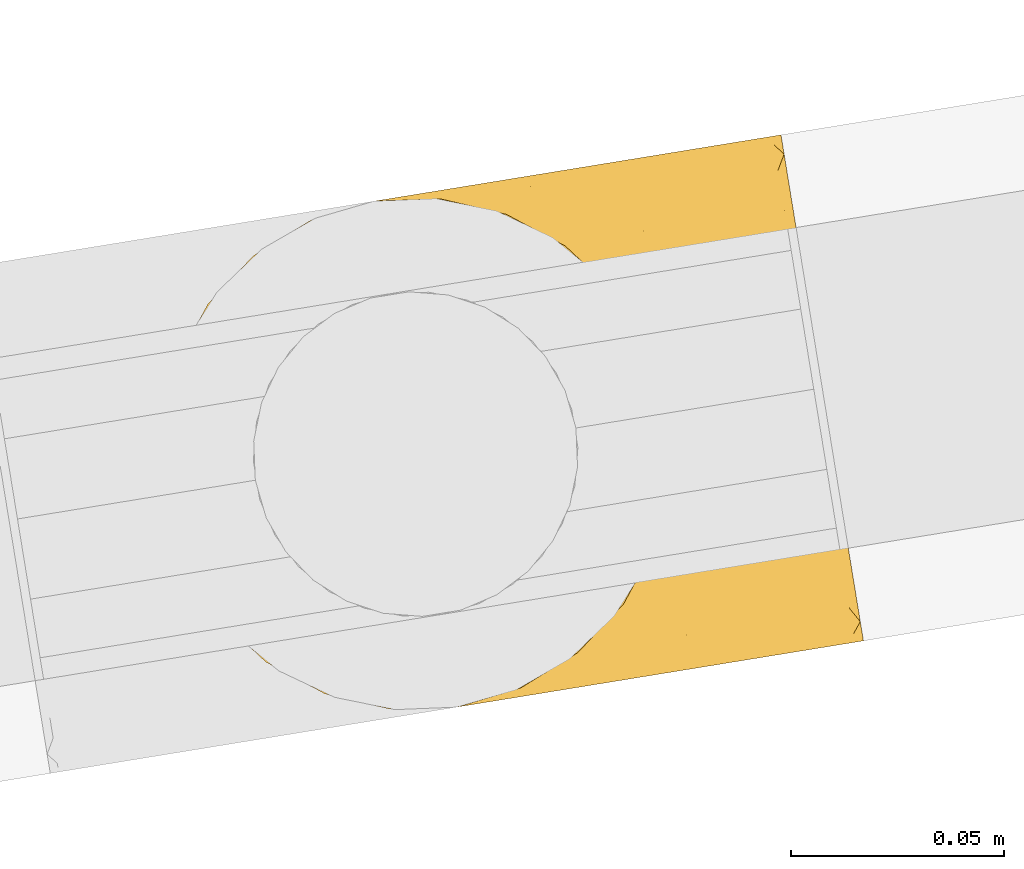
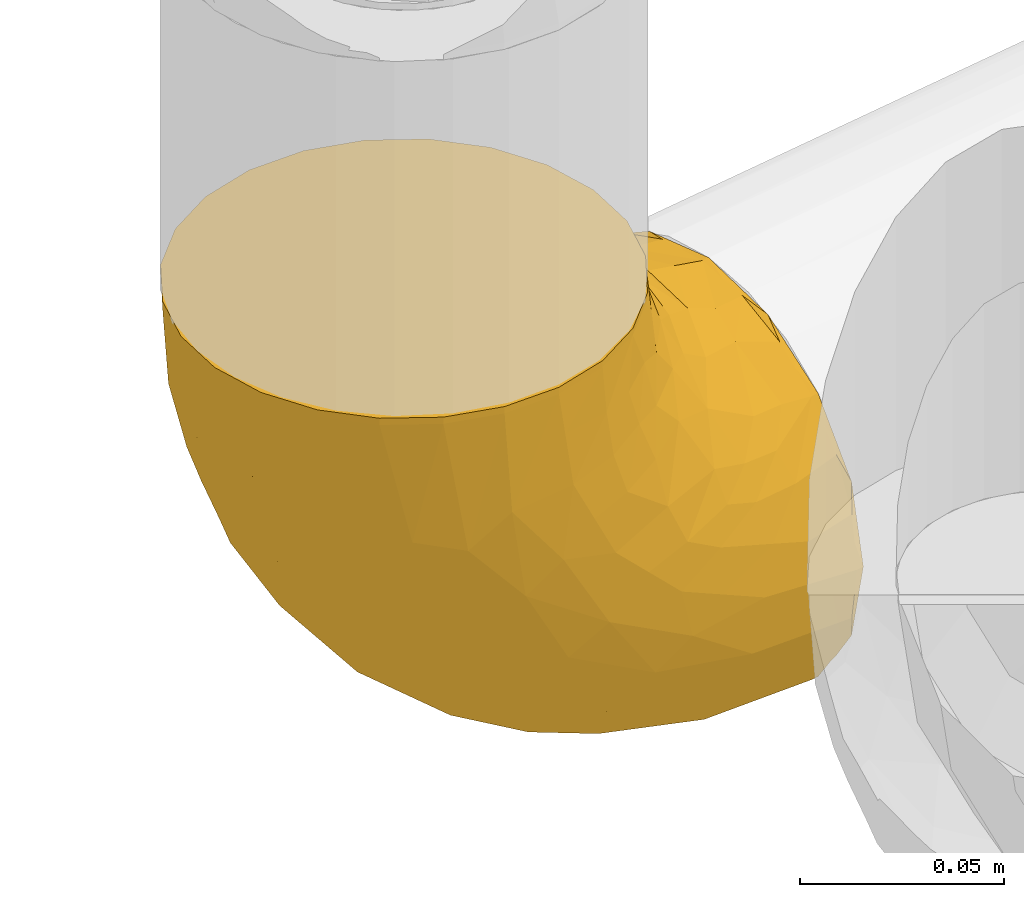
# One storey, part 16 of 56: 1 covering.
"""IFC2X3 building model written with IfcOpenShell, lengths in millimetres."""

from ifc_helpers import new_model, entity, si_unit, converted_unit, derived_unit, direction, frame, origin, origin_with_axes, place, context, subcontext, project, spatial, faceted_brep, material, type_object, element, save


model = new_model("IFC2X3")

# Units and contexts
model_context = context("Model", 3, precision=0.01, world=origin(), true_north=direction((6.12323399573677e-17, 1.0)))
plan_context = context("Plan", 3, precision=1e-05, world=origin_with_axes())
body_context = subcontext(model_context, "Body", "Model", "MODEL_VIEW")
ifc_project = project(units=[converted_unit("PLANEANGLEUNIT", "DEGREE", entity("IfcPositiveLengthMeasure", 0.0174532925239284), si_unit("PLANEANGLEUNIT", "RADIAN"), dimensions=[0, 0, 0, 0, 0, 0, 0]), si_unit("AREAUNIT", "SQUARE_METRE"), si_unit("LENGTHUNIT", "METRE", prefix="MILLI"), si_unit("MASSUNIT", "GRAM", prefix="KILO"), si_unit("POWERUNIT", "WATT"), si_unit("PRESSUREUNIT", "PASCAL", prefix="KILO"), si_unit("FORCEUNIT", "NEWTON", prefix="KILO"), si_unit("ELECTRICVOLTAGEUNIT", "VOLT"), si_unit("ELECTRICCURRENTUNIT", "AMPERE"), si_unit("THERMODYNAMICTEMPERATUREUNIT", "DEGREE_CELSIUS"), si_unit("TIMEUNIT", "SECOND"), si_unit("VOLUMEUNIT", "CUBIC_METRE"), derived_unit("LINEARVELOCITYUNIT", [(si_unit("LENGTHUNIT", "METRE"), 1), (si_unit("TIMEUNIT", "SECOND"), -1)]), derived_unit("VOLUMETRICFLOWRATEUNIT", [(si_unit("VOLUMEUNIT", "CUBIC_METRE"), 1), (si_unit("TIMEUNIT", "SECOND"), -1)]), derived_unit("THERMALTRANSMITTANCEUNIT", [(si_unit("POWERUNIT", "WATT"), 1), (si_unit("THERMODYNAMICTEMPERATUREUNIT", "KELVIN"), -1), (si_unit("AREAUNIT", "SQUARE_METRE"), -1)]), derived_unit("SOUNDPRESSUREUNIT", [(si_unit("PRESSUREUNIT", "PASCAL"), 1)])], contexts=[model_context, plan_context])

# Site, building, storey
site_placement = place(None, frame((-3.09682673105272e-06, 1.93776733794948e-05, 0.0), z_axis=(0.0, 0.0, 1.0), x_axis=(-0.160806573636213, 0.986985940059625, 0.0)))
site = spatial("IfcSite", under=ifc_project, at=site_placement, Name="Default", CompositionType="ELEMENT")
building_placement = place(site_placement, frame((0.0, 0.0, 0.0), z_axis=(0.0, 0.0, 1.0), x_axis=(1.0, -2.77555756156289e-17, 0.0)))
building = spatial("IfcBuilding", under=site, at=building_placement, Name="Bygning (endres i Project Information)", CompositionType="ELEMENT")
storey_placement = place(building_placement, frame((0.0, 0.0, 51360.0000000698), z_axis=(0.0, 0.0, 1.0), x_axis=(1.0, -2.77555756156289e-17, 0.0)))
storey = spatial("IfcBuildingStorey", under=building, at=storey_placement, Name="H01-Nivå D+0,36", CompositionType="ELEMENT", Elevation=51360.0000000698)

# Covering
ifc_material = material(Name="3700.001 Tur")
covering_type = type_object("IfcCoveringType", Name="Pipe Insulation:GLAVA avløpsisol. slange økende 19mm (15,5-25,0)", PredefinedType="INSULATION")
covering_placement = place(storey_placement, frame((1011826.7223707, -395725.815734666, 3238.35472776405), z_axis=(0.0, 0.0, 1.0), x_axis=(1.0, -2.77555756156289e-17, 0.0)))
element("IfcCovering", 1, at=covering_placement, inside=storey, type_object=covering_type, material=ifc_material, Name="Pipe Insulation:GLAVA avløpsisol. slange økende 19mm (15,5-25,0)", ObjectType="Pipe Insulation:GLAVA avløpsisol. slange økende 19mm (15,5-25,0)", PredefinedType="INSULATION", context=body_context, shape_type="Brep", body=[
    faceted_brep([(12.6749081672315, 0.0, 28.9243210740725), (19.1835100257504, 0.0, 19.1835100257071), (28.9243210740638, 0.0, 12.6749081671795), (38.6651321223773, 0.0, 6.16630630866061), (50.15520217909, 0.0, 3.88078927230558), (61.6452722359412, 0.0, 1.59527223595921), (73.1353422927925, 0.0, 3.88078927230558), (84.6254123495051, 0.0, 6.16630630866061), (94.3662233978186, 0.0, 12.6749081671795), (104.107034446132, 0.0, 19.1835100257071), (110.615636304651, 0.0, 28.9243210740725), (117.124238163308, 0.0, 38.665132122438), (119.409755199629, 0.0, 50.1552021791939), (121.695272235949, 0.0, 61.6452722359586), (119.409755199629, 0.0, 73.1353422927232), (117.124238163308, 0.0, 84.6254123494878), (110.615636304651, 0.0, 94.3662233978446), (104.107034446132, 0.0, 104.10703444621), (94.3662233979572, 0.0, 110.615636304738), (84.6254123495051, 0.0, 117.124238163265), (73.1353422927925, 0.0, 119.409755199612), (61.6452722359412, 0.0, 121.695272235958), (50.15520217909, 0.0, 119.409755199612), (38.6651321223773, 0.0, 117.124238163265), (28.9243210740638, 0.0, 110.615636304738), (19.1835100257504, 0.0, 104.10703444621), (12.6749081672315, 0.0, 94.3662233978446), (6.16630630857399, 0.0, 84.6254123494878), (3.88078927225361, 0.0, 73.1353422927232), (1.59527223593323, 0.0, 61.6452722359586), (3.88078927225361, 0.0, 50.1552021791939), (6.16630630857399, 0.0, 38.665132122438), (84.4288140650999, 151.504335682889, 158.145272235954), (77.1873558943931, 154.503845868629, 158.145272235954), (70.0046048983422, 155.449472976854, 158.145272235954), (61.6452722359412, 156.549999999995, 158.145272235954), (53.8742304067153, 155.526922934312, 158.145272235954), (46.1031885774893, 154.503845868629, 158.145272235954), (38.8617304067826, 151.504335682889, 158.145272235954), (31.6202722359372, 148.504825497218, 158.145272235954), (25.4018911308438, 143.733293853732, 158.145272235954), (19.1835100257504, 138.961762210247, 158.145272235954), (14.4119783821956, 132.743381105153, 158.145272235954), (9.64044673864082, 126.524999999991, 158.145272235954), (6.64093655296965, 119.283541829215, 158.145272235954), (3.64142636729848, 112.042083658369, 158.145272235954), (2.69579925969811, 104.859332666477, 158.145272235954), (1.59527223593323, 96.4999999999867, 158.145272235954), (2.61834930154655, 88.7289581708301, 158.145272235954), (3.64142636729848, 80.9579163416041, 158.145272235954), (6.64093655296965, 73.7164581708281, 158.145272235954), (9.64044673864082, 66.4749999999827, 158.145272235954), (14.4119783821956, 60.25661889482, 158.145272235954), (19.1835100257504, 54.0382377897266, 158.145272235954), (25.4018911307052, 49.2667061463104, 158.145272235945), (31.6202722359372, 44.4951745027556, 158.145272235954), (38.8617304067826, 41.4956643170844, 158.145272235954), (46.1031885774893, 38.496154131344, 158.145272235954), (53.2859395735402, 37.5505270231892, 158.145272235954), (61.6452722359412, 36.4499999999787, 158.145272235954), (69.4163140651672, 37.4730770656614, 158.145272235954), (77.1873558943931, 38.496154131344, 158.145272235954), (84.4288140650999, 41.4956643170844, 158.145272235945), (91.6702722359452, 44.4951745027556, 158.145272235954), (97.8886533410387, 49.2667061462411, 158.145272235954), (104.107034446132, 54.0382377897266, 158.145272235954), (108.878566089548, 60.2566188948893, 158.145272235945), (113.650097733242, 66.4749999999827, 158.145272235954), (116.649607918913, 73.7164581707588, 158.145272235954), (119.649118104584, 80.9579163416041, 158.145272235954), (120.594745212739, 88.1406673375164, 158.145272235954), (121.695272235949, 96.4999999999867, 158.145272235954), (120.672195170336, 104.271041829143, 158.145272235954), (119.649118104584, 112.042083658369, 158.145272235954), (116.649607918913, 119.283541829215, 158.145272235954), (113.650097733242, 126.524999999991, 158.145272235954), (108.878566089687, 132.743381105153, 158.145272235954), (104.107034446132, 138.961762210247, 158.145272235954), (97.8886533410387, 143.733293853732, 158.145272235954), (91.6702722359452, 148.504825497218, 158.145272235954), (46.1031885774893, 154.503845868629, 156.145272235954), (61.6452722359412, 156.549999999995, 156.145272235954), (53.2859395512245, 155.449472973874, 156.145272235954), (31.6202722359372, 148.504825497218, 156.145272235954), (38.861730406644, 151.504335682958, 156.145272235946), (25.4018911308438, 143.733293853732, 156.145272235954), (19.1835100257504, 138.961762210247, 156.145272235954), (9.64044673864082, 126.524999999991, 156.145272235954), (14.4119783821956, 132.743381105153, 156.145272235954), (3.64142636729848, 112.042083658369, 156.145272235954), (6.64093655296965, 119.283541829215, 156.145272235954), (2.61834930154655, 104.271041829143, 156.145272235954), (1.59527223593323, 96.4999999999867, 156.145272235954), (2.69579925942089, 88.1406673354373, 156.145272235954), (2.99407838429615, 85.8750124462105, 156.145272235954), (3.64142636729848, 80.9579163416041, 156.145272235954), (9.64044673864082, 66.4749999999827, 156.145272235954), (6.64093655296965, 73.7164581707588, 156.145272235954), (14.4119783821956, 60.25661889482, 156.145272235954), (19.1835100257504, 54.0382377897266, 156.145272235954), (31.6202722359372, 44.4951745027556, 156.145272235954), (25.4018911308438, 49.2667061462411, 156.145272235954), (46.1031885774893, 38.496154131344, 156.145272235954), (38.8617304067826, 41.4956643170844, 156.145272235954), (53.8742304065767, 37.4730770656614, 156.145272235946), (61.6452722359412, 36.4499999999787, 156.145272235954), (77.1873558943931, 38.496154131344, 156.145272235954), (70.0046048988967, 37.5505270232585, 156.145272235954), (91.6702722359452, 44.4951745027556, 156.145272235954), (84.4288140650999, 41.4956643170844, 156.145272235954), (97.8886533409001, 49.2667061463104, 156.145272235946), (104.107034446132, 54.0382377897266, 156.145272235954), (113.650097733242, 66.4749999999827, 156.145272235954), (108.878566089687, 60.25661889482, 156.145272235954), (119.649118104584, 80.9579163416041, 156.145272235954), (116.649607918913, 73.7164581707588, 156.145272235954), (120.296466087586, 85.8750124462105, 156.145272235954), (120.672195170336, 88.7289581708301, 156.145272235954), (121.695272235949, 96.4999999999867, 156.145272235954), (119.649118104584, 112.042083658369, 156.145272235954), (120.594745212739, 104.859332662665, 156.145272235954), (113.650097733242, 126.524999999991, 156.145272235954), (116.649607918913, 119.283541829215, 156.145272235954), (108.878566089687, 132.743381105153, 156.145272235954), (104.107034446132, 138.961762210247, 156.145272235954), (91.6702722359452, 148.504825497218, 156.145272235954), (97.8886533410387, 143.733293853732, 156.145272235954), (77.1873558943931, 154.503845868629, 156.145272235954), (84.4288140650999, 151.504335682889, 156.145272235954), (69.4163140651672, 155.526922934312, 156.145272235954), (61.6452722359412, 42.0004834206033, 6.86143578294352), (50.874360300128, 28.4061816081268, 4.85633208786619), (48.3123405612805, 66.8176923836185, 17.4970961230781), (61.6452722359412, 151.283836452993, 116.144788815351), (50.8743603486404, 153.28894006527, 129.739090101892), (40.1140278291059, 138.43438143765, 92.4811097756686), (29.0681267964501, 134.144438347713, 96.5885905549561), (40.5629880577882, 148.119588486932, 119.160590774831), (26.8652987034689, 142.732214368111, 128.340793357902), (6.2538791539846, 103.184564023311, 96.0393535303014), (9.32891480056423, 118.904536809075, 114.864782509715), (15.7793795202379, 116.677739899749, 88.2689784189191), (30.9943885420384, 100.860670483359, 48.520907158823), (43.033171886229, 122.592591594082, 64.2876891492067), (46.1252897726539, 94.5183470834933, 34.9034338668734), (2.60271791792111, 94.1873799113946, 104.940499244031), (3.35496170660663, 79.0255659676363, 79.1197072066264), (1.59527223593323, 78.4521059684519, 100.599565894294), (16.4717971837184, 130.738697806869, 118.733085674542), (25.2721583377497, 116.858258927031, 72.1727217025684), (61.6452722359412, 111.283353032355, 46.8619192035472), (61.6452722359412, 79.2749999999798, 22.3010460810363), (61.6452722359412, 135.844226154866, 78.8702722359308), (4.10209138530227, 109.248734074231, 125.036729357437), (6.25387908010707, 62.1059203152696, 54.9607093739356), (8.17011244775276, 88.1401035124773, 70.0051707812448), (1.59527223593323, 85.1634733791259, 113.771366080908), (1.59527223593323, 91.8748407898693, 126.943166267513), (51.0085878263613, 145.293239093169, 100.826681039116), (16.4717967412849, 39.4121875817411, 27.406575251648), (15.7793792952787, 69.8762968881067, 41.467534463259), (29.0681253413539, 61.5566846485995, 24.0008362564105), (40.5629880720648, 38.9846813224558, 10.0256837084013), (46.1031885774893, 2.0, 3.64142636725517), (38.8617304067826, 2.0, 6.6409365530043), (31.6202722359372, 2.0, 9.64044673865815), (26.8652981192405, 29.8044794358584, 15.4130584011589), (25.4018911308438, 2.0, 14.4119783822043), (19.1835100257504, 2.0, 19.1835100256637), (61.6452722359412, 2.0, 1.5952722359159), (53.8742304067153, 2.0, 2.61834930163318), (9.32891462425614, 43.2804911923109, 39.2407362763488), (9.64044673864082, 2.0, 31.6202722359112), (6.64093655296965, 2.0, 38.8617304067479), (3.64142636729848, 2.0, 46.1031885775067), (14.4119783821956, 2.0, 25.4018911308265), (1.59527223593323, 57.5457063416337, 79.6931662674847), (1.59527223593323, 67.9989061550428, 90.1463660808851), (2.6027179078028, 53.2047737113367, 63.9578927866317), (4.1020913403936, 33.1085435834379, 48.8965385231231), (1.59527223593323, 31.202105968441, 66.270431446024), (1.59527223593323, 2.0, 61.6452722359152), (1.59527223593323, 14.7966155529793, 63.6720570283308), (1.59527223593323, 44.3739061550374, 72.98179885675), (38.4156117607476, 76.0964222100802, 25.867792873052), (2.61834930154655, 2.0, 53.8742304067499), (17.5329938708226, 97.6322626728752, 60.5130135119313), (1.59527223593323, 94.4732153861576, 143.348657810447), (30.453594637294, 26.3881555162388, 120.50419746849), (45.3850170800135, 19.8213005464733, 124.070288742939), (39.6602346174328, 30.495068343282, 130.078513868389), (3.64833911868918, 79.6755573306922, 142.117064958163), (3.2176443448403, 77.7956794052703, 128.62883256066), (35.7453885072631, 41.3921957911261, 147.533586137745), (19.0905134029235, 51.2599985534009, 139.082463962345), (32.0600621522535, 39.3569033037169, 136.422330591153), (7.1678522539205, 66.4255659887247, 130.785364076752), (6.53844542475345, 61.7611370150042, 118.478414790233), (11.6121890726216, 57.397905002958, 129.916934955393), (2.87864533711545, 73.6921423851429, 116.031663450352), (4.10903521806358, 59.8559552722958, 104.870233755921), (19.6892528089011, 11.105458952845, 105.417545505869), (18.442420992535, 21.0489355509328, 106.909255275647), (12.6384382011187, 18.495195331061, 98.668926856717), (2.61834930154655, 2.0, 69.4163140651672), (2.99407837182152, 2.0, 72.2702596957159), (3.64142636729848, 2.0, 77.1873558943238), (7.16352338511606, 69.7763679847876, 141.952476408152), (12.7756283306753, 60.2362581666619, 143.451789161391), (46.8445885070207, 35.2954551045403, 141.678469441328), (28.5046498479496, 35.1684660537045, 126.594306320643), (18.6122281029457, 35.474407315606, 115.549145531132), (34.8214494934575, 13.4287309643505, 117.005756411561), (31.6202722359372, 2.0, 113.650097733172), (38.8617304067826, 2.0, 116.649607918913), (46.1031885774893, 2.0, 119.649118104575), (2.81174882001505, 54.7534216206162, 92.7490897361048), (6.64320962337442, 29.8078963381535, 91.4693001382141), (2.9890941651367, 44.0771599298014, 86.1872714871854), (3.24649436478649, 27.0781928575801, 79.6356612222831), (11.1155242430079, 29.7714545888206, 100.652594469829), (2.96958213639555, 16.2064688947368, 75.6631370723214), (9.64044673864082, 2.0, 91.6702722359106), (8.05093078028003, 16.1340663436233, 90.2295581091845), (19.1835100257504, 2.0, 104.107034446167), (13.3023469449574, 48.9737177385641, 120.648409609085), (21.705384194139, 43.9447950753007, 129.564302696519), (61.6452722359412, 10.6124999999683, 124.002984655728), (44.9928957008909, 11.3511933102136, 120.547927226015), (9.64933126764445, 40.6154890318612, 104.53242301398), (6.18578600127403, 39.3574666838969, 95.2125765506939), (61.6452722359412, 2.0, 121.695272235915), (61.6452722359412, 25.5297875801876, 132.61548465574), (61.6452722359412, 19.2249999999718, 126.310697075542), (50.8046760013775, 29.8232292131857, 134.199400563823), (61.6452722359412, 31.8345751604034, 138.92027223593), (14.4119783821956, 2.0, 97.8886533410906), (25.4018911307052, 2.0, 108.878566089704), (6.64093655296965, 2.0, 84.4288140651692), (53.8742304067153, 2.0, 120.672195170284), (104.200031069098, 51.2599985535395, 139.082463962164), (87.5451559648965, 41.3921957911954, 147.533586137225), (76.4459559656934, 35.2954551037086, 141.678469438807), (119.642205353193, 79.6755573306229, 142.117064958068), (121.695272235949, 94.4732153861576, 143.348657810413), (121.695272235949, 57.5457063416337, 79.6931662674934), (120.478798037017, 54.7534299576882, 92.7490814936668), (120.301449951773, 44.077157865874, 86.1872721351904), (77.9055273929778, 19.8213005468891, 124.070288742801), (92.8369498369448, 26.3881555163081, 120.504197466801), (83.6303098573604, 30.495068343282, 130.07851386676), (110.773465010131, 60.6680970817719, 143.724416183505), (116.468392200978, 70.3948101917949, 141.257647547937), (116.122692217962, 66.4255659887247, 130.785364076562), (120.411899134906, 73.6921423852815, 116.031663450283), (120.252303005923, 78.4327232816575, 128.101851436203), (121.695272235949, 91.8748407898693, 126.943166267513), (101.585160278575, 43.9447950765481, 129.564302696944), (104.678309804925, 35.4744037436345, 115.549151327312), (109.988197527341, 48.9737177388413, 120.648409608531), (94.7858946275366, 35.1684660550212, 126.594306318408), (91.230482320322, 39.3569033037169, 136.422330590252), (73.0698771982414, 26.1401484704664, 130.052599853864), (121.695272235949, 67.9989061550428, 90.1463660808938), (119.181510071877, 59.8559490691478, 104.870222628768), (78.2976487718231, 11.3511933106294, 120.547927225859), (121.695272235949, 14.7966155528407, 63.6720570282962), (119.649118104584, 2.0, 77.1873558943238), (120.296466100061, 2.0, 72.2702596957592), (120.672195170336, 2.0, 69.4163140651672), (121.695272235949, 2.0, 61.6452722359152), (113.641203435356, 40.6154761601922, 104.532434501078), (110.65210593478, 18.4951987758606, 98.6689283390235), (104.107034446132, 2.0, 104.107034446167), (115.239608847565, 16.134063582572, 90.2295673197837), (108.878566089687, 2.0, 97.8886533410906), (113.650097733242, 2.0, 91.6702722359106), (120.044048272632, 27.0781868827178, 79.6356673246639), (116.647331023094, 29.8078959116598, 91.4693094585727), (104.848120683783, 21.04892582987, 106.909254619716), (112.175015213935, 29.7714523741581, 100.652602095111), (116.752097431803, 61.76113027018, 118.478411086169), (121.695272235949, 31.202105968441, 66.270431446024), (120.320962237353, 16.206468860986, 75.6631375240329), (121.695272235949, 44.3739061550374, 72.9817988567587), (103.601296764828, 11.1054582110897, 105.417540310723), (88.4690949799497, 13.428730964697, 117.00575641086), (77.1873558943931, 2.0, 119.649118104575), (84.4288140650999, 2.0, 116.649607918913), (91.6702722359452, 2.0, 113.650097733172), (111.678355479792, 57.3979048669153, 129.916934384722), (121.695272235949, 78.4521059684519, 100.599565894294), (69.4163140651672, 2.0, 120.672195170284), (117.104756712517, 39.3574747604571, 95.2125864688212), (116.649607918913, 2.0, 84.4288140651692), (97.8886533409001, 2.0, 108.878566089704), (121.695272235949, 85.1634733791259, 113.771366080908), (120.687826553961, 94.1873799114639, 104.9404992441), (94.2224191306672, 61.5566846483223, 24.0008362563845), (98.0183867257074, 85.9725557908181, 41.28701771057), (107.511165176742, 69.8762968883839, 41.4675344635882), (82.7275563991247, 38.9846813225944, 10.0256837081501), (91.6702722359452, 2.0, 9.64044673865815), (84.4288140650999, 2.0, 6.6409365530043), (77.1873558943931, 2.0, 3.64142636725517), (92.2961553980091, 109.624370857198, 57.2846075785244), (80.2573722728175, 93.8575895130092, 35.5526854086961), (77.1652542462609, 123.241842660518, 63.6269305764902), (120.68782656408, 53.2047737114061, 63.9578927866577), (119.935582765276, 79.0255659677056, 79.1197072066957), (119.18845308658, 109.248734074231, 125.036729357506), (72.4161841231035, 153.28894006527, 129.7390901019), (82.7275564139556, 148.119588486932, 119.160590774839), (96.4252457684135, 142.732214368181, 128.340793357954), (106.818747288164, 130.738697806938, 118.73308567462), (94.2224176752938, 134.144438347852, 96.5885905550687), (74.9782050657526, 140.648176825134, 91.3275819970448), (113.961629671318, 118.904536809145, 114.864782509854), (107.511164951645, 116.677739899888, 88.2689784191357), (113.650097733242, 2.0, 31.6202722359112), (106.818747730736, 39.4121875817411, 27.406575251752), (113.961629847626, 43.2804911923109, 39.2407362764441), (119.188453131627, 33.1085435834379, 48.8965385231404), (117.036665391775, 62.1059203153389, 54.9607093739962), (120.672195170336, 2.0, 53.8742304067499), (119.649118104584, 2.0, 46.1031885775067), (117.036665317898, 103.18456402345, 96.0393535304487), (115.12043202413, 88.1401035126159, 70.005170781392), (72.4161841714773, 28.406181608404, 4.85633208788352), (104.107034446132, 2.0, 19.1835100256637), (96.425246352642, 29.8044794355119, 15.4130584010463), (72.2819553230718, 57.318589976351, 12.852032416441), (97.8886533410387, 2.0, 14.4119783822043), (108.878566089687, 2.0, 25.4018911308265), (83.1765175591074, 65.6641633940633, 19.7108916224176), (84.8749309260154, 132.277483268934, 82.0488553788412), (105.757550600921, 97.6322626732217, 60.5130135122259), (116.649607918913, 2.0, 38.8617304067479), (69.4163140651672, 2.0, 2.61834930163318)], [[[0, 1, 2, 3, 4, 5, 6, 7, 8, 9, 10, 11, 12, 13, 14, 15, 16, 17, 18, 19, 20, 21, 22, 23, 24, 25, 26, 27, 28, 29, 30, 31]], [[32, 33, 34, 35, 36, 37, 38, 39, 40, 41, 42, 43, 44, 45, 46, 47, 48, 49, 50, 51, 52, 53, 54, 55, 56, 57, 58, 59, 60, 61, 62, 63, 64, 65, 66, 67, 68, 69, 70, 71, 72, 73, 74, 75, 76, 77, 78, 79]], [[80, 37, 36, 35, 81, 82]], [[83, 39, 38, 37, 80, 84]], [[40, 39, 83, 85, 86, 41]], [[87, 43, 42, 41, 86, 88]], [[89, 45, 44, 43, 87, 90]], [[46, 45, 89, 91, 92, 47]], [[49, 48, 47, 92, 93, 94, 95]], [[96, 51, 50, 49, 95, 97]], [[52, 51, 96, 98, 99, 53]], [[100, 55, 54, 53, 99, 101]], [[102, 57, 56, 55, 100, 103]], [[58, 57, 102, 104, 105, 59]], [[106, 61, 60, 59, 105, 107]], [[108, 63, 62, 61, 106, 109]], [[64, 63, 108, 110, 111, 65]], [[112, 67, 66, 65, 111, 113]], [[114, 69, 68, 67, 112, 115]], [[70, 69, 114, 116, 117, 118, 71]], [[119, 73, 72, 71, 118, 120]], [[121, 75, 74, 73, 119, 122]], [[76, 75, 121, 123, 124, 77]], [[125, 79, 78, 77, 124, 126]], [[127, 33, 32, 79, 125, 128]], [[34, 33, 127, 129, 81, 35]], [[130, 131, 132]], [[81, 133, 134]], [[135, 136, 137]], [[137, 136, 138]], [[137, 83, 84, 80]], [[139, 140, 141]], [[142, 143, 144]], [[145, 146, 147]], [[148, 86, 138]], [[138, 86, 85, 83]], [[143, 142, 149]], [[150, 151, 144]], [[143, 152, 150]], [[153, 92, 91, 89]], [[154, 146, 155]], [[87, 148, 140]], [[145, 147, 156, 157]], [[80, 134, 137]], [[158, 135, 137]], [[155, 146, 139]], [[148, 87, 88, 86]], [[159, 160, 161]], [[162, 163, 164, 165]], [[166, 165, 167, 168]], [[166, 162, 165]], [[131, 169, 170, 163]], [[159, 171, 160]], [[171, 172, 173, 174]], [[153, 139, 145]], [[159, 168, 175, 172]], [[144, 143, 150]], [[146, 176, 177, 147]], [[178, 179, 180]], [[179, 181, 182, 180]], [[178, 180, 183, 176]], [[178, 146, 154]], [[136, 149, 141]], [[131, 163, 162]], [[166, 159, 161]], [[184, 144, 132]], [[153, 140, 139]], [[179, 171, 174]], [[132, 144, 151]], [[134, 158, 137]], [[161, 160, 142]], [[146, 178, 176]], [[179, 178, 154]], [[179, 154, 171]], [[179, 174, 185, 181]], [[154, 155, 160]], [[172, 171, 159]], [[154, 160, 171]], [[160, 186, 142]], [[153, 157, 187, 92]], [[146, 145, 139]], [[153, 145, 157]], [[140, 89, 90, 87]], [[140, 153, 89]], [[141, 140, 148]], [[136, 141, 148]], [[141, 186, 155]], [[142, 144, 184]], [[186, 141, 149]], [[137, 138, 83]], [[148, 138, 136]], [[159, 166, 168]], [[162, 166, 161]], [[141, 155, 139]], [[160, 155, 186]], [[130, 132, 151]], [[184, 162, 161]], [[162, 184, 132]], [[142, 184, 161]], [[134, 80, 82, 81]], [[158, 134, 133]], [[133, 152, 158]], [[143, 158, 152]], [[158, 143, 135]], [[143, 136, 135]], [[132, 131, 162]], [[169, 131, 130]], [[143, 149, 136]], [[186, 149, 142]], [[188, 189, 190]], [[187, 157, 191]], [[157, 156, 192]], [[95, 187, 191]], [[193, 194, 195]], [[196, 197, 198]], [[199, 200, 197]], [[201, 202, 203]], [[182, 181, 204, 205, 206]], [[207, 208, 96]], [[209, 105, 104, 102]], [[188, 190, 210]], [[188, 210, 211]], [[187, 95, 94, 93, 92]], [[193, 102, 103, 100]], [[212, 213, 214, 215]], [[200, 177, 216]], [[202, 201, 212]], [[217, 218, 219]], [[183, 219, 218]], [[217, 203, 220]], [[221, 222, 223]], [[191, 96, 97, 95]], [[195, 210, 190]], [[224, 201, 203]], [[225, 211, 226]], [[227, 189, 228]], [[202, 188, 211]], [[195, 190, 209]], [[221, 182, 206]], [[223, 203, 217]], [[189, 188, 212]], [[200, 229, 225]], [[194, 100, 101, 99]], [[216, 218, 230]], [[208, 99, 98, 96]], [[199, 197, 196]], [[200, 147, 177]], [[228, 231, 227]], [[202, 212, 188]], [[228, 212, 215]], [[232, 189, 233]], [[209, 234, 235]], [[234, 209, 190]], [[105, 209, 235]], [[193, 209, 102]], [[232, 234, 189]], [[226, 210, 195]], [[211, 225, 229]], [[211, 210, 226]], [[211, 229, 220]], [[195, 194, 226]], [[198, 226, 194]], [[218, 216, 176]], [[216, 177, 176]], [[229, 200, 216]], [[180, 219, 183]], [[217, 220, 230]], [[218, 176, 183]], [[221, 219, 180]], [[223, 217, 219]], [[221, 223, 219]], [[223, 222, 236, 224]], [[224, 203, 223]], [[220, 203, 202]], [[211, 220, 202]], [[217, 230, 218]], [[220, 229, 230]], [[216, 230, 229]], [[201, 224, 237, 213]], [[212, 201, 213]], [[182, 221, 180]], [[221, 206, 238, 222]], [[189, 227, 233]], [[199, 196, 192]], [[191, 192, 207]], [[200, 199, 147]], [[147, 199, 156]], [[196, 207, 192]], [[200, 225, 197]], [[225, 226, 198]], [[157, 192, 191]], [[156, 199, 192]], [[207, 196, 208]], [[191, 207, 96]], [[198, 208, 196]], [[194, 99, 208]], [[225, 198, 197]], [[208, 198, 194]], [[194, 193, 100]], [[209, 193, 195]], [[189, 234, 190]], [[235, 234, 232]], [[228, 215, 239, 231]], [[189, 212, 228]], [[240, 111, 110, 108]], [[241, 108, 109, 106]], [[105, 235, 242]], [[243, 244, 114]], [[245, 246, 247]], [[248, 249, 250]], [[248, 233, 227]], [[251, 252, 112]], [[116, 114, 244, 118, 117]], [[253, 254, 255]], [[244, 243, 256]], [[253, 252, 251]], [[257, 258, 259]], [[243, 114, 115, 112]], [[258, 260, 249]], [[261, 250, 260]], [[262, 242, 235]], [[246, 263, 264]], [[231, 265, 227]], [[240, 108, 241]], [[266, 267, 268, 269, 270]], [[264, 259, 271]], [[272, 273, 274]], [[260, 257, 261]], [[274, 273, 275, 276]], [[277, 247, 278]], [[279, 280, 258]], [[254, 281, 264]], [[266, 282, 283]], [[283, 282, 277]], [[282, 284, 277]], [[272, 285, 273]], [[286, 279, 249]], [[286, 287, 288, 289]], [[259, 281, 290]], [[272, 280, 279]], [[263, 246, 245]], [[264, 291, 254]], [[286, 289, 285]], [[248, 286, 249]], [[260, 250, 249]], [[265, 231, 292, 287]], [[242, 250, 261]], [[262, 248, 250]], [[241, 242, 261]], [[242, 106, 107, 105]], [[262, 235, 232, 233]], [[248, 262, 233]], [[260, 258, 257]], [[279, 258, 249]], [[259, 258, 271]], [[290, 257, 259]], [[240, 261, 257]], [[264, 271, 246]], [[263, 291, 264]], [[280, 278, 293]], [[293, 246, 271]], [[278, 274, 277]], [[277, 284, 247]], [[284, 245, 247]], [[283, 276, 294, 267]], [[274, 278, 272]], [[283, 274, 276]], [[280, 272, 278]], [[272, 279, 285]], [[293, 278, 247]], [[258, 280, 271]], [[246, 293, 247]], [[271, 280, 293]], [[286, 285, 279]], [[285, 289, 295, 273]], [[283, 277, 274]], [[266, 283, 267]], [[265, 287, 286]], [[253, 255, 252]], [[254, 291, 296]], [[255, 254, 296]], [[243, 255, 256]], [[254, 253, 281]], [[256, 255, 296]], [[255, 243, 252]], [[290, 281, 253]], [[259, 264, 281]], [[243, 112, 252]], [[251, 112, 113, 111]], [[111, 240, 251]], [[290, 251, 240]], [[251, 290, 253]], [[290, 240, 257]], [[242, 241, 106]], [[240, 241, 261]], [[242, 262, 250]], [[286, 248, 265]], [[227, 265, 248]], [[297, 256, 296, 291]], [[298, 299, 300]], [[301, 302, 303, 304]], [[305, 306, 307]], [[308, 309, 245]], [[297, 310, 256]], [[311, 127, 312]], [[313, 314, 315]], [[311, 81, 129, 127]], [[316, 307, 152]], [[314, 317, 318]], [[313, 312, 125]], [[312, 127, 128, 125]], [[313, 125, 126, 124]], [[319, 320, 321]], [[314, 124, 123, 121]], [[317, 121, 122, 119]], [[306, 151, 150]], [[309, 291, 263, 245]], [[322, 321, 323]], [[314, 318, 315]], [[322, 323, 308]], [[322, 270, 324, 325]], [[326, 309, 327]], [[119, 310, 317]], [[304, 328, 301]], [[306, 305, 299]], [[320, 329, 330]], [[328, 331, 301]], [[330, 329, 332, 302]], [[320, 319, 333, 329]], [[331, 334, 301]], [[298, 301, 334]], [[307, 306, 150]], [[169, 130, 328]], [[297, 309, 326]], [[327, 309, 323]], [[330, 301, 298]], [[300, 323, 321]], [[310, 118, 244, 256]], [[150, 152, 307]], [[308, 245, 284, 282]], [[335, 307, 316]], [[133, 311, 316]], [[315, 318, 305]], [[309, 297, 291]], [[310, 297, 326]], [[310, 326, 317]], [[310, 119, 120, 118]], [[326, 327, 318]], [[121, 317, 314]], [[326, 318, 317]], [[318, 336, 305]], [[322, 282, 266, 270]], [[309, 308, 323]], [[322, 308, 282]], [[321, 325, 337, 319]], [[321, 322, 325]], [[300, 321, 320]], [[298, 300, 320]], [[300, 336, 327]], [[305, 307, 335]], [[336, 300, 299]], [[301, 330, 302]], [[320, 330, 298]], [[314, 313, 124]], [[312, 313, 315]], [[300, 327, 323]], [[318, 327, 336]], [[133, 316, 152]], [[335, 312, 315]], [[312, 335, 316]], [[305, 335, 315]], [[328, 304, 338, 169]], [[331, 328, 130]], [[130, 151, 331]], [[306, 331, 151]], [[331, 306, 334]], [[306, 298, 334]], [[316, 311, 312]], [[81, 311, 133]], [[306, 299, 298]], [[336, 299, 305]], [[170, 169, 5]], [[185, 174, 30]], [[185, 29, 181]], [[3, 2, 165]], [[3, 165, 164, 163]], [[3, 163, 4]], [[1, 167, 2]], [[5, 4, 170]], [[167, 1, 168]], [[4, 163, 170]], [[29, 185, 30]], [[31, 174, 173, 172]], [[175, 0, 172]], [[175, 1, 0]], [[31, 172, 0]], [[1, 175, 168]], [[167, 165, 2]], [[31, 30, 174]], [[204, 181, 29]], [[239, 215, 22]], [[239, 21, 231]], [[27, 26, 222]], [[27, 222, 238, 206]], [[27, 206, 28]], [[25, 236, 26]], [[29, 28, 204]], [[236, 25, 224]], [[28, 206, 205, 204]], [[21, 239, 22]], [[23, 215, 214, 213]], [[237, 24, 213]], [[237, 25, 24]], [[23, 213, 24]], [[25, 237, 224]], [[236, 222, 26]], [[23, 22, 215]], [[292, 231, 21]], [[14, 269, 268, 267]], [[269, 13, 270]], [[19, 18, 289]], [[19, 289, 288, 287]], [[19, 287, 20]], [[17, 295, 18]], [[21, 20, 292]], [[295, 17, 273]], [[20, 287, 292]], [[13, 269, 14]], [[15, 267, 294, 276]], [[275, 16, 276]], [[275, 17, 16]], [[15, 276, 16]], [[17, 275, 273]], [[295, 289, 18]], [[15, 14, 267]], [[324, 270, 13]], [[338, 304, 6]], [[338, 5, 169]], [[11, 10, 319]], [[11, 319, 337, 325]], [[11, 325, 12]], [[9, 333, 10]], [[13, 12, 324]], [[333, 9, 329]], [[12, 325, 324]], [[5, 338, 6]], [[7, 304, 303, 302]], [[332, 8, 302]], [[332, 9, 8]], [[7, 302, 8]], [[9, 332, 329]], [[333, 319, 10]], [[7, 6, 304]]]),
])

save(model, "model.ifc")
